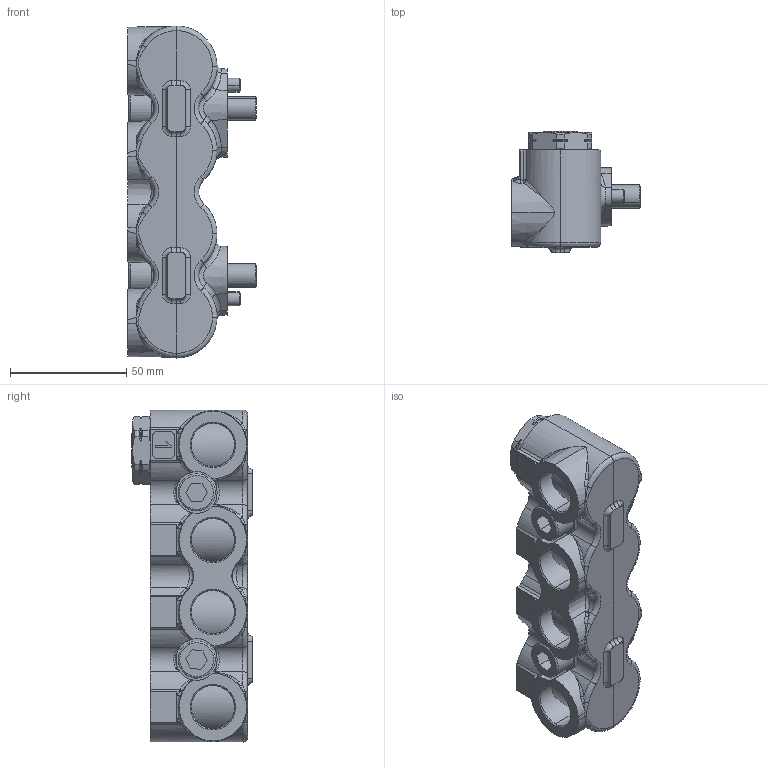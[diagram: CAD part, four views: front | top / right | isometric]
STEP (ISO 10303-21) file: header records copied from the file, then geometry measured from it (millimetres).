
FILE_DESCRIPTION (( 'STEP AP214' ), '1' );
FILE_NAME ('P7318-1A.STEP', '2023-05-25T08:59:53', ( '' ), ( '' ), 'SwSTEP 2.0', 'SolidWorks 2021', '' );
FILE_SCHEMA (( 'AUTOMOTIVE_DESIGN' ));
Length unit declared in the file: millimetre
Products named in the file (1): P7318-1A
Bounding box: 55.5 x 52 x 143 mm (x, y, z)
Volume: 189056.6 mm3; surface area: 42314.6 mm2
Topology: 10 solids, 10 shells, 543 faces, 1337 edges, 829 vertices
Faces by surface type: cylinder 154, bspline 146, plane 108, cone 101, torus 34
Entity records: 28678 total; most frequent: CARTESIAN_POINT 11001, ORIENTED_EDGE 2666, DIRECTION 2136, EDGE_CURVE 1333, AXIS2_PLACEMENT_3D 878, VERTEX_POINT 829, EDGE_LOOP 570, UNCERTAINTY_MEASURE_WITH_UNIT 555
